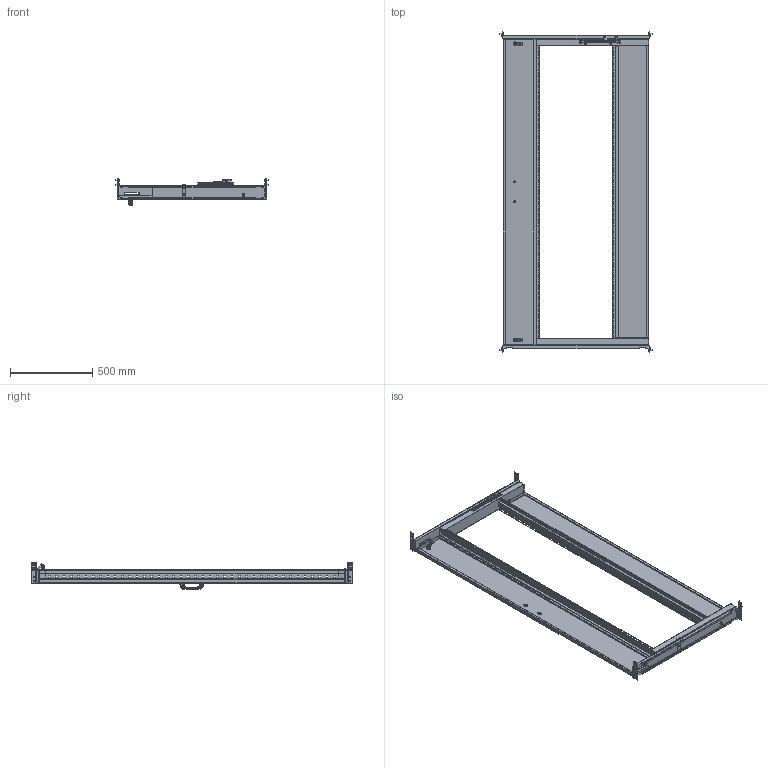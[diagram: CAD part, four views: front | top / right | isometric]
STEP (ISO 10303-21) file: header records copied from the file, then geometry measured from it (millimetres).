
FILE_DESCRIPTION(('Open CASCADE Model'),'2;1');
FILE_NAME('Open CASCADE Shape Model','2025-03-20T11:29:39',('Author'),( 'Open CASCADE'),'Open CASCADE STEP processor 7.8','Open CASCADE 7.8' ,'Unknown');
FILE_SCHEMA(('AUTOMOTIVE_DESIGN { 1 0 10303 214 1 1 1 1 }'));
Length unit declared in the file: millimetre
Products named in the file (36): Compound1; Compound2; Solid1; Solid2; Solid3; Compound3; Solid4; Solid5; Solid6; Solid7; Solid8; Solid9; Solid10; Solid11; Solid12; Solid13; Solid14; Solid15; Solid16; Solid17; Solid18; Compound4; Solid19; Solid20; Solid21; Solid22; Solid23; Solid24; Solid25; Solid26; Solid27; Compound5; Solid28; Solid29; Solid30; Solid31
Assembly tree (57 placements, depth 3):
  Compound1
    Compound2
      Solid1
      Solid2  x2
      Solid3
    Compound3
      Solid4
      Solid2  x2
      Solid3
    Solid5  x2
    Solid6  x2
    Solid7
    Solid8
    Solid9
    Solid10
    Solid11
    Solid12
    Solid13  x2
    Solid14  x4
    Solid15  x8
    Solid16
    Solid17  x2
    Solid18  x2
    Compound4
      Solid19
      Solid20
      Solid21
      Solid22  x2
      Solid23
      Solid24
      Solid25
      Solid26  x2
      Solid27  x2
    Compound5
      Solid28
      Solid29
    Solid30
    Solid31
Bounding box: 926 x 1955 x 165.5 mm (x, y, z)
Volume: 3327714.3 mm3; surface area: 4265745.7 mm2
Topology: 55 solids, 73 shells, 6101 faces, 17118 edges, 11097 vertices
Faces by surface type: plane 4024, cylinder 714, bspline 670, cone 439, torus 176, sphere 78
Entity records: 185063 total; most frequent: CARTESIAN_POINT 59037, ORIENTED_EDGE 27546, DIRECTION 22541, EDGE_CURVE 13943, LINE 10497, VECTOR 10497, VERTEX_POINT 9085, FACE_BOUND 6248
